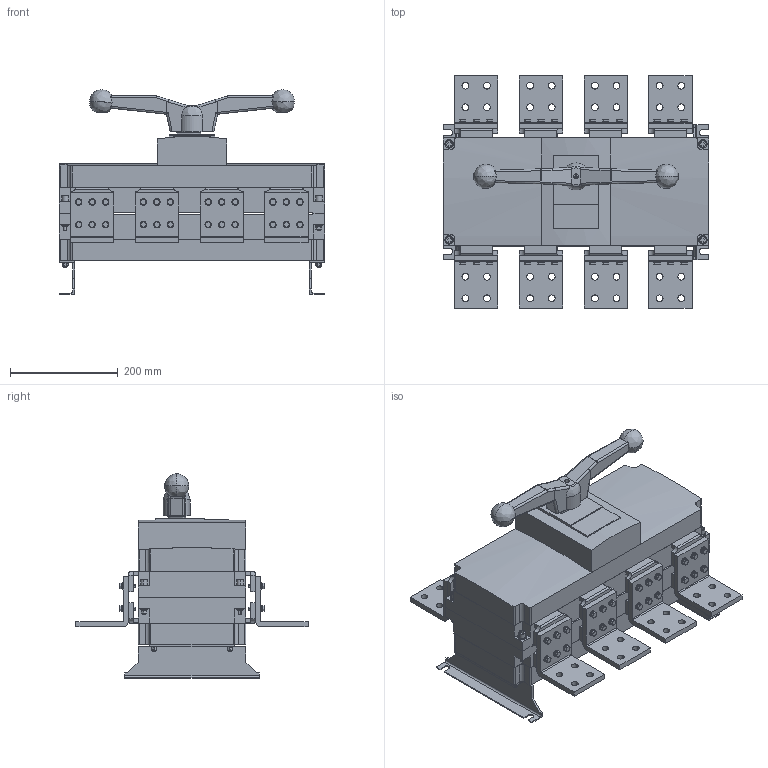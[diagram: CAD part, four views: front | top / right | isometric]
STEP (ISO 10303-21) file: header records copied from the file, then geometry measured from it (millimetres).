
FILE_DESCRIPTION((''),'2;1');
FILE_NAME('NH40-2000-4_4P_202411_ASM','2025-10-14T',('zhuanghy'),(''),'CREO PARAMETRIC BY PTC INC, 2018070','CREO PARAMETRIC BY PTC INC, 2018070','');
FILE_SCHEMA(('AUTOMOTIVE_DESIGN { 1 0 10303 214 1 1 1 1 }'));
Length unit declared in the file: millimetre
Products named in the file (190): BANNH40-2000-4_7_1_1_1_1_1; DZNH40-2000-4_5_1_1_1_1_1; AZBNH40-2000-4_6_1_AF0_1_1_1_1; AZBNH40-2000-4_6_1_AF1_1_1_1_1; LJBNH40-2000-4_3_1_1_1_1_1; SGNH40-2000-4_5_1_1_1_1_1; PDQ8_3_1_2_1_1_1_1_1; PDQ6_1_1_2_1_1_1_1_1; TDQ6_1_1_2_1_1_1_1_1; LSM6_6_1_2_1_1_1_1_1; NLFLSM6_10_1_2_1_1_1_1_1; LMM6_2_1_2_1_1_1_1_1; NH40-2000-4_ASM_5_ASM_1_AF0_ASM_ASM; CTNH40-2000-3_7_2_1_1_1_2_3_1_1; NH40-2000-4_4P_202103_ASM_1_AF0_ASM; NH40-2000-4_4P_202209_ASM_1_ASM_ASM; NH40-2000-4_4P_202210_ASM_1_ASM_ASM; NH40-2000-4_4P_202403_ASM_1_ASM_ASM; BANNH40-2000-3_8_1_1_1_1_1__A_7; BANNH40-2000-3_8_1_1_1_1_1__A_8; DZNH40-2000-3_6_1_1_1_1_1_1_A_4; AZBNH40-2000-3_7_1_1_1_1_1__A_7; AZBNH40-2000-3_7_1_1_1_1_1__A_8; LJBNH40-2000-3_2_1_1_1_1_1___18; LJBNH40-2000-3_2_1_1_1_1_1___19; LJBNH40-2000-3_2_1_1_1_1_1___20; LJBNH40-2000-3_2_1_1_1_1_1___21; LJBNH40-2000-3_2_1_1_1_1_1___22; LJBNH40-2000-3_2_1_1_1_1_1___23; LJBNH40-2000-3_2_1_1_1_1_1___24; LJBNH40-2000-3_2_1_1_1_1_1___25; SGNH40-2000-3_6_1_1_1_1_1_1_A_4; FZNH40-2000-3_1_1_1_1_1_1_1_A_4; ZSJNH40-2000-3_1_1_1_1_1_1_1__5; PDQ8_3_1_1_1_1_1_1_AF0_1_1_2_3_; PDQ8_3_1_1_1_1_1_1_AF1_1_1_2_3_; PDQ8_3_1_1_1_1_1_1_AF2_1_1_2_3_; PDQ8_3_1_1_1_1_1_1_AF3_1_1_2_3_; PDQ6_1_1_1_1_1_1_1_AF0_1_1_2_3_; PDQ6_1_1_1_1_1_1_1_AF1_1_1_2_3_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
Assembly tree (370 placements, depth 11):
  NH40-2000-4_4P_202411_ASM
    NH40-2000-4_4P_202405_ASM_1_ASM
      NH40-2000-4_4P_202403_ASM_1_ASM_ASM
        NH40-2000-4_4P_202210_ASM_1_ASM_ASM
          NH40-2000-4_4P_202209_ASM_1_ASM_ASM
            NH40-2000-4_4P_202103_ASM_1_AF0_ASM
              NH40-2000-4_ASM_5_ASM_1_AF0_ASM_ASM
                BANNH40-2000-4_7_1_1_1_1_1  x2
                DZNH40-2000-4_5_1_1_1_1_1
                AZBNH40-2000-4_6_1_AF0_1_1_1_1
                AZBNH40-2000-4_6_1_AF1_1_1_1_1
                LJBNH40-2000-4_3_1_1_1_1_1  x8
                SGNH40-2000-4_5_1_1_1_1_1
                PDQ8_3_1_2_1_1_1_1_1  x4
                PDQ6_1_1_2_1_1_1_1_1  x52
                TDQ6_1_1_2_1_1_1_1_1  x52
                LSM6_6_1_2_1_1_1_1_1  x53
                NLFLSM6_10_1_2_1_1_1_1_1  x4
                LMM6_2_1_2_1_1_1_1_1  x7
              CTNH40-2000-3_7_2_1_1_1_2_3_1_1  x8
      ASM0003_ASM_1_ASM
        NH40-2000-3_3P_202407_ASM_1_1_2_ASM
          NH40-2000-3W_3P_202407_ASM__A_4_ASM
            NH40-2000-3W_3P_202405_ASM__A_4_ASM
              NH40-2000-3W_3P_202312_ASM__A_4_ASM
                NH40-2500-3_3P_202209_5_ASM_A_4_ASM
                  NH40-2000-3_3P_202103_ASM_1_A_5_ASM
                  NH40-1000_3150_202107_ASM_1_A_6_ASM
                  PRT0001_1_1_1_1_1_1_2_3_1
Bounding box: 492 x 430 x 378.94 mm (x, y, z)
Volume: 20145671.6 mm3; surface area: 1999401.2 mm2
Topology: 198 solids, 200 shells, 2743 faces, 6784 edges, 4493 vertices
Faces by surface type: plane 1318, cylinder 998, cone 408, bspline 10, sphere 4, extrusion 3, torus 2
Entity records: 26675 total; most frequent: CARTESIAN_POINT 5209, DIRECTION 4174, ORIENTED_EDGE 2498, AXIS2_PLACEMENT_3D 1718, EDGE_CURVE 1250, VERTEX_POINT 829, VECTOR 738, PROPERTY_DEFINITION 737
